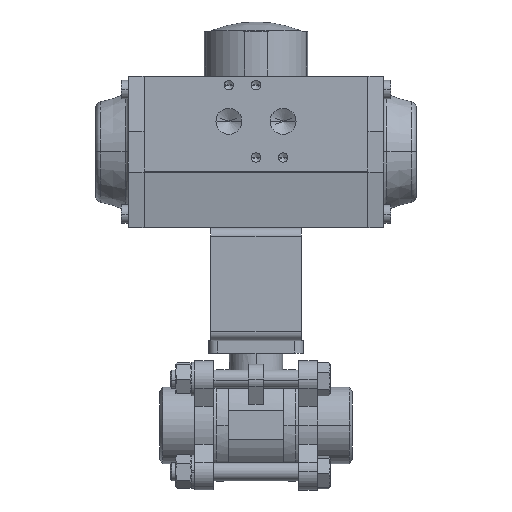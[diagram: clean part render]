
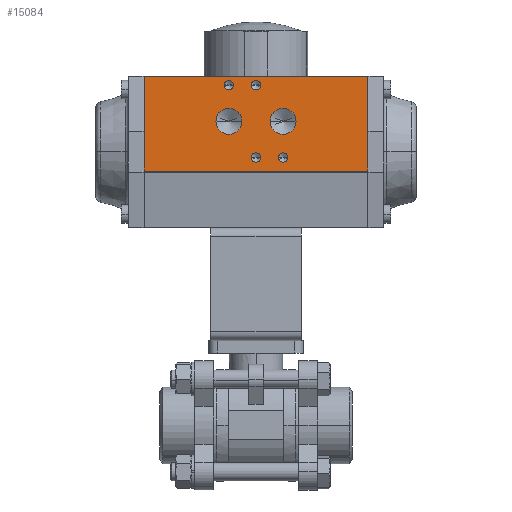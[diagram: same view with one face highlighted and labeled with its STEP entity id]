
A CAD part, top view. The second image highlights one B-rep face of the part: STEP entity #15084.
In plain terms, the highlighted planar face has unit normal (0, 0, 1) as drawn and (1, 0, 0) by its records, which use the part's own axes.
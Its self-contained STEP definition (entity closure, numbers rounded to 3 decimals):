
#528 = AXIS2_PLACEMENT_3D ( 'NONE', #13845, #13846, #13847 ) ;
#559 = AXIS2_PLACEMENT_3D ( 'NONE', #13905, #13907, #13909 ) ;
#634 = CIRCLE ( 'NONE', #658, 5.722 ) ;
#658 = AXIS2_PLACEMENT_3D ( 'NONE', #13864, #13866, #13868 ) ;
#681 = AXIS2_PLACEMENT_3D ( 'NONE', #13827, #13828, #13829 ) ;
#765 = CIRCLE ( 'NONE', #559, 5.722 ) ;
#802 = CIRCLE ( 'NONE', #681, 2.1 ) ;
#851 = CIRCLE ( 'NONE', #528, 2.1 ) ;
#889 = CARTESIAN_POINT ( 'NONE',  ( 36., 13.5, 6.277 ) ) ;
#890 = CARTESIAN_POINT ( 'NONE',  ( 36., 13.5, 17.722 ) ) ;
#2496 = CARTESIAN_POINT ( 'NONE',  ( 36., 13.5, -17.722 ) ) ;
#2498 = CARTESIAN_POINT ( 'NONE',  ( 36., 13.5, -6.277 ) ) ;
#2509 = CARTESIAN_POINT ( 'NONE',  ( 36., 29.5, -2.1 ) ) ;
#2510 = CARTESIAN_POINT ( 'NONE',  ( 36., 29.5, 2.1 ) ) ;
#2516 = CARTESIAN_POINT ( 'NONE',  ( 36., -2.5, -2.1 ) ) ;
#2519 = CARTESIAN_POINT ( 'NONE',  ( 36., -2.5, 2.1 ) ) ;
#2530 = CARTESIAN_POINT ( 'NONE',  ( 36., -2.5, -14.1 ) ) ;
#2535 = CARTESIAN_POINT ( 'NONE',  ( 36., -2.5, -9.9 ) ) ;
#2546 = CARTESIAN_POINT ( 'NONE',  ( 36., 29.5, 9.9 ) ) ;
#2552 = CARTESIAN_POINT ( 'NONE',  ( 36., 29.5, 14.1 ) ) ;
#2607 = CARTESIAN_POINT ( 'NONE',  ( 36., 33.5, 49.5 ) ) ;
#2632 = CARTESIAN_POINT ( 'NONE',  ( 36., -8.5, 49.5 ) ) ;
#3086 = EDGE_CURVE ( 'NONE', #4004, #10421, #8437, .T. ) ;
#3088 = EDGE_CURVE ( 'NONE', #10360, #10366, #5991, .T. ) ;
#3089 = EDGE_CURVE ( 'NONE', #10344, #10349, #6096, .T. ) ;
#3090 = EDGE_CURVE ( 'NONE', #10330, #10333, #6204, .T. ) ;
#3091 = EDGE_CURVE ( 'NONE', #10323, #10324, #6095, .T. ) ;
#3092 = EDGE_CURVE ( 'NONE', #10310, #10312, #6701, .T. ) ;
#3093 = EDGE_CURVE ( 'NONE', #5973, #5974, #6066, .T. ) ;
#3094 = EDGE_CURVE ( 'NONE', #10446, #10421, #8460, .T. ) ;
#3095 = EDGE_CURVE ( 'NONE', #3938, #10446, #8459, .T. ) ;
#3096 = EDGE_CURVE ( 'NONE', #3938, #4004, #8441, .T. ) ;
#3938 = VERTEX_POINT ( 'NONE', #4686 ) ;
#4004 = VERTEX_POINT ( 'NONE', #4750 ) ;
#4686 = CARTESIAN_POINT ( 'NONE',  ( 36., -8.5, -49.5 ) ) ;
#4750 = CARTESIAN_POINT ( 'NONE',  ( 36., 33.5, -49.5 ) ) ;
#4967 = CARTESIAN_POINT ( 'NONE',  ( 36., -2.5, -12. ) ) ;
#4968 = DIRECTION ( 'NONE',  ( 1., 0., 0. ) ) ;
#4969 = DIRECTION ( 'NONE',  ( 0., 0., -1. ) ) ;
#4984 = CARTESIAN_POINT ( 'NONE',  ( 36., 29.5, 12. ) ) ;
#4985 = DIRECTION ( 'NONE',  ( 1., 0., 0. ) ) ;
#4986 = DIRECTION ( 'NONE',  ( 0., 0., -1. ) ) ;
#5202 = EDGE_CURVE ( 'NONE', #10349, #10344, #15333, .T. ) ;
#5216 = EDGE_CURVE ( 'NONE', #10366, #10360, #15341, .T. ) ;
#5671 = ORIENTED_EDGE ( 'NONE', *, *, #3096, .T. ) ;
#5672 = ORIENTED_EDGE ( 'NONE', *, *, #3095, .F. ) ;
#5673 = ORIENTED_EDGE ( 'NONE', *, *, #3094, .F. ) ;
#5674 = ORIENTED_EDGE ( 'NONE', *, *, #3086, .T. ) ;
#5675 = ORIENTED_EDGE ( 'NONE', *, *, #11480, .F. ) ;
#5676 = ORIENTED_EDGE ( 'NONE', *, *, #3093, .F. ) ;
#5677 = ORIENTED_EDGE ( 'NONE', *, *, #11474, .F. ) ;
#5678 = ORIENTED_EDGE ( 'NONE', *, *, #3092, .F. ) ;
#5679 = ORIENTED_EDGE ( 'NONE', *, *, #11468, .F. ) ;
#5680 = ORIENTED_EDGE ( 'NONE', *, *, #3091, .F. ) ;
#5681 = ORIENTED_EDGE ( 'NONE', *, *, #11462, .F. ) ;
#5682 = ORIENTED_EDGE ( 'NONE', *, *, #3090, .F. ) ;
#5683 = ORIENTED_EDGE ( 'NONE', *, *, #5202, .F. ) ;
#5684 = ORIENTED_EDGE ( 'NONE', *, *, #3089, .F. ) ;
#5685 = ORIENTED_EDGE ( 'NONE', *, *, #5216, .F. ) ;
#5686 = ORIENTED_EDGE ( 'NONE', *, *, #3088, .F. ) ;
#5973 = VERTEX_POINT ( 'NONE', #889 ) ;
#5974 = VERTEX_POINT ( 'NONE', #890 ) ;
#5991 = CIRCLE ( 'NONE', #6328, 2.1 ) ;
#5998 = VECTOR ( 'NONE', #8468, 1000. ) ;
#6066 = CIRCLE ( 'NONE', #6473, 5.722 ) ;
#6085 = VECTOR ( 'NONE', #8439, 1000. ) ;
#6095 = CIRCLE ( 'NONE', #6565, 2.1 ) ;
#6096 = CIRCLE ( 'NONE', #6323, 2.1 ) ;
#6107 = VECTOR ( 'NONE', #8470, 1000. ) ;
#6155 = AXIS2_PLACEMENT_3D ( 'NONE', #8450, #8451, #8452 ) ;
#6204 = CIRCLE ( 'NONE', #6155, 2.1 ) ;
#6323 = AXIS2_PLACEMENT_3D ( 'NONE', #8447, #8448, #8449 ) ;
#6328 = AXIS2_PLACEMENT_3D ( 'NONE', #8444, #8445, #8446 ) ;
#6330 = AXIS2_PLACEMENT_3D ( 'NONE', #8456, #8457, #8458 ) ;
#6411 = EDGE_LOOP ( 'NONE', ( #5684, #5683 ) ) ;
#6425 = EDGE_LOOP ( 'NONE', ( #5676, #5675 ) ) ;
#6468 = EDGE_LOOP ( 'NONE', ( #5686, #5685 ) ) ;
#6473 = AXIS2_PLACEMENT_3D ( 'NONE', #8461, #8462, #8463 ) ;
#6565 = AXIS2_PLACEMENT_3D ( 'NONE', #8453, #8454, #8455 ) ;
#6574 = EDGE_LOOP ( 'NONE', ( #5678, #5677 ) ) ;
#6585 = EDGE_LOOP ( 'NONE', ( #5680, #5679 ) ) ;
#6586 = EDGE_LOOP ( 'NONE', ( #5682, #5681 ) ) ;
#6602 = VECTOR ( 'NONE', #8465, 1000. ) ;
#6645 = EDGE_LOOP ( 'NONE', ( #5674, #5673, #5672, #5671 ) ) ;
#6701 = CIRCLE ( 'NONE', #6330, 5.722 ) ;
#8437 = LINE ( 'NONE', #8438, #6085 ) ;
#8438 = CARTESIAN_POINT ( 'NONE',  ( 36., 33.5, -49.5 ) ) ;
#8439 = DIRECTION ( 'NONE',  ( 0., 0., 1. ) ) ;
#8441 = LINE ( 'NONE', #8469, #6107 ) ;
#8443 = CARTESIAN_POINT ( 'NONE',  ( 36., -8.5, 49.5 ) ) ;
#8444 = CARTESIAN_POINT ( 'NONE',  ( 36., 29.5, 12. ) ) ;
#8445 = DIRECTION ( 'NONE',  ( 1., 0., 0. ) ) ;
#8446 = DIRECTION ( 'NONE',  ( 0., 0., -1. ) ) ;
#8447 = CARTESIAN_POINT ( 'NONE',  ( 36., -2.5, -12. ) ) ;
#8448 = DIRECTION ( 'NONE',  ( 1., 0., 0. ) ) ;
#8449 = DIRECTION ( 'NONE',  ( 0., 0., -1. ) ) ;
#8450 = CARTESIAN_POINT ( 'NONE',  ( 36., -2.5, 0. ) ) ;
#8451 = DIRECTION ( 'NONE',  ( 1., 0., 0. ) ) ;
#8452 = DIRECTION ( 'NONE',  ( 0., 0., -1. ) ) ;
#8453 = CARTESIAN_POINT ( 'NONE',  ( 36., 29.5, 0. ) ) ;
#8454 = DIRECTION ( 'NONE',  ( 1., 0., 0. ) ) ;
#8455 = DIRECTION ( 'NONE',  ( 0., 0., -1. ) ) ;
#8456 = CARTESIAN_POINT ( 'NONE',  ( 36., 13.5, -12. ) ) ;
#8457 = DIRECTION ( 'NONE',  ( 1., 0., 0. ) ) ;
#8458 = DIRECTION ( 'NONE',  ( 0., 0., -1. ) ) ;
#8459 = LINE ( 'NONE', #8466, #5998 ) ;
#8460 = LINE ( 'NONE', #8443, #6602 ) ;
#8461 = CARTESIAN_POINT ( 'NONE',  ( 36., 13.5, 12. ) ) ;
#8462 = DIRECTION ( 'NONE',  ( 1., 0., 0. ) ) ;
#8463 = DIRECTION ( 'NONE',  ( 0., 0., -1. ) ) ;
#8465 = DIRECTION ( 'NONE',  ( 0., 1., 0. ) ) ;
#8466 = CARTESIAN_POINT ( 'NONE',  ( 36., -8.5, -49.5 ) ) ;
#8468 = DIRECTION ( 'NONE',  ( 0., 0., 1. ) ) ;
#8469 = CARTESIAN_POINT ( 'NONE',  ( 36., -8.5, -49.5 ) ) ;
#8470 = DIRECTION ( 'NONE',  ( 0., 1., 0. ) ) ;
#8886 = AXIS2_PLACEMENT_3D ( 'NONE', #12766, #12777, #12778 ) ;
#10310 = VERTEX_POINT ( 'NONE', #2496 ) ;
#10312 = VERTEX_POINT ( 'NONE', #2498 ) ;
#10323 = VERTEX_POINT ( 'NONE', #2509 ) ;
#10324 = VERTEX_POINT ( 'NONE', #2510 ) ;
#10330 = VERTEX_POINT ( 'NONE', #2516 ) ;
#10333 = VERTEX_POINT ( 'NONE', #2519 ) ;
#10344 = VERTEX_POINT ( 'NONE', #2530 ) ;
#10349 = VERTEX_POINT ( 'NONE', #2535 ) ;
#10360 = VERTEX_POINT ( 'NONE', #2546 ) ;
#10366 = VERTEX_POINT ( 'NONE', #2552 ) ;
#10421 = VERTEX_POINT ( 'NONE', #2607 ) ;
#10446 = VERTEX_POINT ( 'NONE', #2632 ) ;
#11462 = EDGE_CURVE ( 'NONE', #10333, #10330, #802, .T. ) ;
#11468 = EDGE_CURVE ( 'NONE', #10324, #10323, #851, .T. ) ;
#11474 = EDGE_CURVE ( 'NONE', #10312, #10310, #634, .T. ) ;
#11480 = EDGE_CURVE ( 'NONE', #5974, #5973, #765, .T. ) ;
#12763 = FACE_BOUND ( 'NONE', #6411, .T. ) ;
#12766 = CARTESIAN_POINT ( 'NONE',  ( 36., -8.5, -49.5 ) ) ;
#12768 = FACE_BOUND ( 'NONE', #6574, .T. ) ;
#12769 = FACE_BOUND ( 'NONE', #6468, .T. ) ;
#12770 = FACE_BOUND ( 'NONE', #6425, .T. ) ;
#12771 = FACE_OUTER_BOUND ( 'NONE', #6645, .T. ) ;
#12772 = FACE_BOUND ( 'NONE', #6586, .T. ) ;
#12773 = PLANE ( 'NONE',  #8886 ) ;
#12774 = FACE_BOUND ( 'NONE', #6585, .T. ) ;
#12777 = DIRECTION ( 'NONE',  ( 1., 0., 0. ) ) ;
#12778 = DIRECTION ( 'NONE',  ( 0., 0., -1. ) ) ;
#13827 = CARTESIAN_POINT ( 'NONE',  ( 36., -2.5, 0. ) ) ;
#13828 = DIRECTION ( 'NONE',  ( 1., 0., 0. ) ) ;
#13829 = DIRECTION ( 'NONE',  ( 0., 0., -1. ) ) ;
#13845 = CARTESIAN_POINT ( 'NONE',  ( 36., 29.5, 0. ) ) ;
#13846 = DIRECTION ( 'NONE',  ( 1., 0., 0. ) ) ;
#13847 = DIRECTION ( 'NONE',  ( 0., 0., -1. ) ) ;
#13864 = CARTESIAN_POINT ( 'NONE',  ( 36., 13.5, -12. ) ) ;
#13866 = DIRECTION ( 'NONE',  ( 1., 0., 0. ) ) ;
#13868 = DIRECTION ( 'NONE',  ( 0., 0., -1. ) ) ;
#13905 = CARTESIAN_POINT ( 'NONE',  ( 36., 13.5, 12. ) ) ;
#13907 = DIRECTION ( 'NONE',  ( 1., 0., 0. ) ) ;
#13909 = DIRECTION ( 'NONE',  ( 0., 0., -1. ) ) ;
#15084 = ADVANCED_FACE ( 'NONE', ( #12769, #12763, #12772, #12774, #12768, #12770, #12771 ), #12773, .T. ) ;
#15331 = AXIS2_PLACEMENT_3D ( 'NONE', #4984, #4985, #4986 ) ;
#15333 = CIRCLE ( 'NONE', #15337, 2.1 ) ;
#15337 = AXIS2_PLACEMENT_3D ( 'NONE', #4967, #4968, #4969 ) ;
#15341 = CIRCLE ( 'NONE', #15331, 2.1 ) ;
